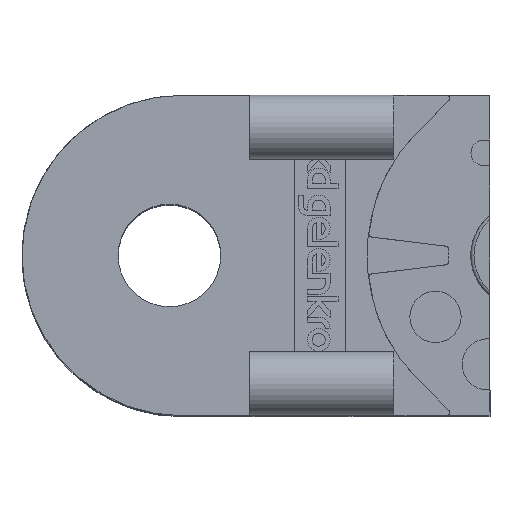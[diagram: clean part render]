
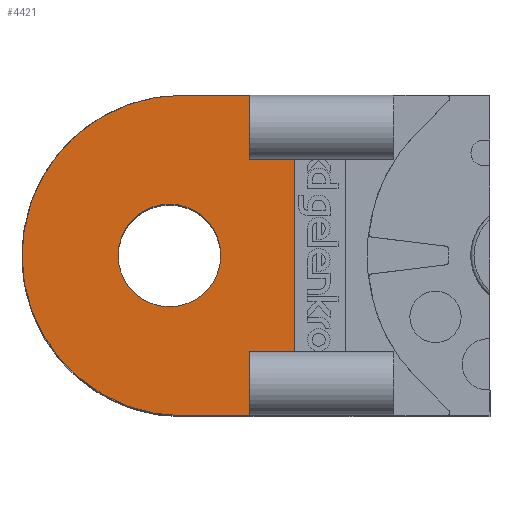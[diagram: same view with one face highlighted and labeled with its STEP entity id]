
A CAD part, top view. The second image highlights one B-rep face of the part: STEP entity #4421.
In plain terms, the highlighted planar face has unit normal (0, 0, 1).
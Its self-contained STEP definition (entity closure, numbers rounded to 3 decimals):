
#282=CARTESIAN_POINT('',(186.111,170.46,8.0));
#283=VERTEX_POINT('',#282);
#290=CARTESIAN_POINT('',(196.611,170.46,8.));
#291=VERTEX_POINT('',#290);
#292=CARTESIAN_POINT('',(186.111,170.46,8.0));
#293=DIRECTION('',(1.0,0.0,0.0));
#294=VECTOR('',#293,10.5);
#295=LINE('',#292,#294);
#296=EDGE_CURVE('',#283,#291,#295,.T.);
#467=CARTESIAN_POINT('',(196.611,120.46,8.));
#468=VERTEX_POINT('',#467);
#475=CARTESIAN_POINT('',(186.111,120.46,8.0));
#476=VERTEX_POINT('',#475);
#477=CARTESIAN_POINT('',(196.611,120.46,8.));
#478=DIRECTION('',(-1.0,0.0,0.0));
#479=VECTOR('',#478,10.5);
#480=LINE('',#477,#479);
#481=EDGE_CURVE('',#468,#476,#480,.T.);
#683=CARTESIAN_POINT('',(192.111,145.46,8.0));
#684=VERTEX_POINT('',#683);
#685=CARTESIAN_POINT('',(184.111,145.46,8.0));
#686=DIRECTION('',(0.0,0.0,-1.0));
#687=DIRECTION('',(-1.0,0.0,0.0));
#688=AXIS2_PLACEMENT_3D('',#685,#686,#687);
#689=CIRCLE('',#688,8.0);
#690=EDGE_CURVE('',#684,#684,#689,.T.);
#1599=CARTESIAN_POINT('',(203.611,160.46,8.0));
#1600=VERTEX_POINT('',#1599);
#1607=CARTESIAN_POINT('',(203.611,130.46,8.));
#1608=VERTEX_POINT('',#1607);
#1609=CARTESIAN_POINT('',(203.611,130.46,8.));
#1610=DIRECTION('',(0.0,1.0,0.0));
#1611=VECTOR('',#1610,30.);
#1612=LINE('',#1609,#1611);
#1613=EDGE_CURVE('',#1608,#1600,#1612,.T.);
#4373=CARTESIAN_POINT('',(213.354,145.466,8.0));
#4374=DIRECTION('',(0.0,0.0,1.0));
#4375=DIRECTION('',(1.0,0.0,0.0));
#4376=AXIS2_PLACEMENT_3D('',#4373,#4374,#4375);
#4377=PLANE('',#4376);
#4378=CARTESIAN_POINT('',(196.611,160.46,8.));
#4379=VERTEX_POINT('',#4378);
#4380=CARTESIAN_POINT('',(196.611,160.46,8.));
#4381=DIRECTION('',(0.0,1.0,0.0));
#4382=VECTOR('',#4381,10.0);
#4383=LINE('',#4380,#4382);
#4384=EDGE_CURVE('',#4379,#291,#4383,.T.);
#4385=ORIENTED_EDGE('',*,*,#4384,.T.);
#4386=ORIENTED_EDGE('',*,*,#296,.F.);
#4387=CARTESIAN_POINT('',(186.111,145.46,8.0));
#4388=DIRECTION('',(0.0,0.0,-1.0));
#4389=DIRECTION('',(0.0,1.0,0.0));
#4390=AXIS2_PLACEMENT_3D('',#4387,#4388,#4389);
#4391=CIRCLE('',#4390,25.);
#4392=EDGE_CURVE('',#476,#283,#4391,.T.);
#4393=ORIENTED_EDGE('',*,*,#4392,.F.);
#4394=ORIENTED_EDGE('',*,*,#481,.F.);
#4395=CARTESIAN_POINT('',(196.611,130.46,8.));
#4396=VERTEX_POINT('',#4395);
#4397=CARTESIAN_POINT('',(196.611,120.46,8.));
#4398=DIRECTION('',(0.0,1.0,0.0));
#4399=VECTOR('',#4398,10.0);
#4400=LINE('',#4397,#4399);
#4401=EDGE_CURVE('',#468,#4396,#4400,.T.);
#4402=ORIENTED_EDGE('',*,*,#4401,.T.);
#4403=CARTESIAN_POINT('',(196.611,130.46,8.));
#4404=DIRECTION('',(1.0,0.0,0.0));
#4405=VECTOR('',#4404,7.);
#4406=LINE('',#4403,#4405);
#4407=EDGE_CURVE('',#4396,#1608,#4406,.T.);
#4408=ORIENTED_EDGE('',*,*,#4407,.T.);
#4409=ORIENTED_EDGE('',*,*,#1613,.T.);
#4410=CARTESIAN_POINT('',(203.611,160.46,8.0));
#4411=DIRECTION('',(-1.0,0.0,0.0));
#4412=VECTOR('',#4411,7.);
#4413=LINE('',#4410,#4412);
#4414=EDGE_CURVE('',#1600,#4379,#4413,.T.);
#4415=ORIENTED_EDGE('',*,*,#4414,.T.);
#4416=EDGE_LOOP('',(#4385,#4386,#4393,#4394,#4402,#4408,#4409,#4415));
#4417=FACE_OUTER_BOUND('',#4416,.T.);
#4418=ORIENTED_EDGE('',*,*,#690,.T.);
#4419=EDGE_LOOP('',(#4418));
#4420=FACE_BOUND('',#4419,.T.);
#4421=ADVANCED_FACE('',(#4417,#4420),#4377,.T.);
